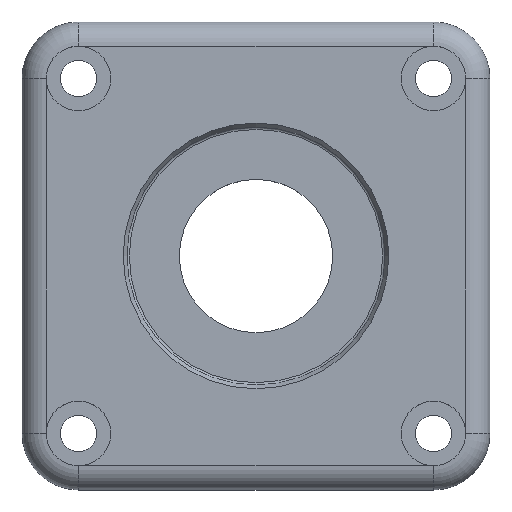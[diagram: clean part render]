
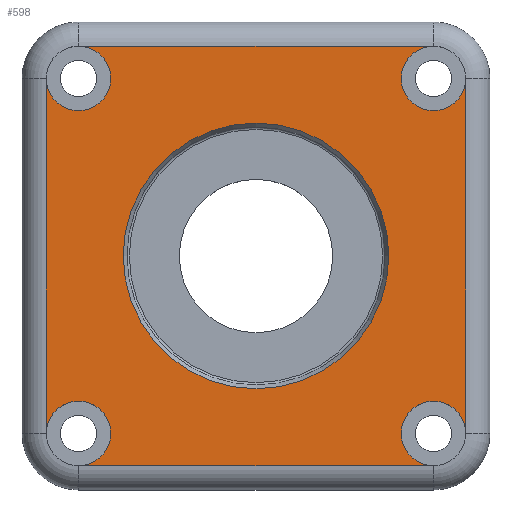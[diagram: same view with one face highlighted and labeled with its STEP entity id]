
A CAD part, top view. The second image highlights one B-rep face of the part: STEP entity #598.
In plain terms, the highlighted planar face has unit normal (0, 0, 1).
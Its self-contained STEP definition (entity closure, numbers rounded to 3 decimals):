
#18=FACE_BOUND('',#174,.T.);
#31=PLANE('',#669);
#45=LINE('',#1003,#78);
#46=LINE('',#1009,#79);
#47=LINE('',#1013,#80);
#48=LINE('',#1016,#81);
#78=VECTOR('',#785,10.);
#79=VECTOR('',#790,10.);
#80=VECTOR('',#793,10.);
#81=VECTOR('',#796,10.);
#132=FACE_OUTER_BOUND('',#173,.T.);
#173=EDGE_LOOP('',(#432,#433,#434,#435,#436,#437,#438,#439,#440,#441));
#174=EDGE_LOOP('',(#442));
#228=CIRCLE('',#668,16.462);
#229=CIRCLE('',#670,4.);
#230=CIRCLE('',#671,4.);
#231=CIRCLE('',#672,4.);
#232=CIRCLE('',#673,4.);
#233=CIRCLE('',#674,4.);
#234=CIRCLE('',#675,4.);
#281=VERTEX_POINT('',#993);
#282=VERTEX_POINT('',#997);
#283=VERTEX_POINT('',#998);
#284=VERTEX_POINT('',#1000);
#285=VERTEX_POINT('',#1002);
#286=VERTEX_POINT('',#1004);
#287=VERTEX_POINT('',#1006);
#288=VERTEX_POINT('',#1008);
#289=VERTEX_POINT('',#1010);
#290=VERTEX_POINT('',#1012);
#291=VERTEX_POINT('',#1014);
#335=EDGE_CURVE('',#281,#281,#228,.T.);
#337=EDGE_CURVE('',#282,#283,#229,.T.);
#338=EDGE_CURVE('',#283,#284,#230,.T.);
#339=EDGE_CURVE('',#285,#284,#45,.T.);
#340=EDGE_CURVE('',#285,#286,#231,.T.);
#341=EDGE_CURVE('',#286,#287,#232,.T.);
#342=EDGE_CURVE('',#288,#287,#46,.T.);
#343=EDGE_CURVE('',#288,#289,#233,.T.);
#344=EDGE_CURVE('',#290,#289,#47,.T.);
#345=EDGE_CURVE('',#290,#291,#234,.T.);
#346=EDGE_CURVE('',#282,#291,#48,.T.);
#432=ORIENTED_EDGE('',*,*,#337,.T.);
#433=ORIENTED_EDGE('',*,*,#338,.T.);
#434=ORIENTED_EDGE('',*,*,#339,.F.);
#435=ORIENTED_EDGE('',*,*,#340,.T.);
#436=ORIENTED_EDGE('',*,*,#341,.T.);
#437=ORIENTED_EDGE('',*,*,#342,.F.);
#438=ORIENTED_EDGE('',*,*,#343,.T.);
#439=ORIENTED_EDGE('',*,*,#344,.F.);
#440=ORIENTED_EDGE('',*,*,#345,.T.);
#441=ORIENTED_EDGE('',*,*,#346,.F.);
#442=ORIENTED_EDGE('',*,*,#335,.F.);
#598=ADVANCED_FACE('',(#132,#18),#31,.T.);
#668=AXIS2_PLACEMENT_3D('',#994,#776,#777);
#669=AXIS2_PLACEMENT_3D('',#996,#779,#780);
#670=AXIS2_PLACEMENT_3D('',#999,#781,#782);
#671=AXIS2_PLACEMENT_3D('',#1001,#783,#784);
#672=AXIS2_PLACEMENT_3D('',#1005,#786,#787);
#673=AXIS2_PLACEMENT_3D('',#1007,#788,#789);
#674=AXIS2_PLACEMENT_3D('',#1011,#791,#792);
#675=AXIS2_PLACEMENT_3D('',#1015,#794,#795);
#776=DIRECTION('center_axis',(0.,0.,1.));
#777=DIRECTION('ref_axis',(0.,-1.,0.));
#779=DIRECTION('center_axis',(0.,0.,1.));
#780=DIRECTION('ref_axis',(1.,0.,0.));
#781=DIRECTION('center_axis',(0.,0.,-1.));
#782=DIRECTION('ref_axis',(1.,0.,0.));
#783=DIRECTION('center_axis',(0.,0.,-1.));
#784=DIRECTION('ref_axis',(1.,0.,0.));
#785=DIRECTION('',(0.,-1.,0.));
#786=DIRECTION('center_axis',(0.,0.,-1.));
#787=DIRECTION('ref_axis',(1.,0.,0.));
#788=DIRECTION('center_axis',(0.,0.,-1.));
#789=DIRECTION('ref_axis',(1.,0.,0.));
#790=DIRECTION('',(1.,0.,0.));
#791=DIRECTION('center_axis',(0.,0.,-1.));
#792=DIRECTION('ref_axis',(1.,0.,0.));
#793=DIRECTION('',(0.,1.,0.));
#794=DIRECTION('center_axis',(0.,0.,-1.));
#795=DIRECTION('ref_axis',(1.,0.,0.));
#796=DIRECTION('',(-1.,0.,0.));
#993=CARTESIAN_POINT('',(0.,16.462,10.));
#994=CARTESIAN_POINT('Origin',(0.,0.,10.));
#996=CARTESIAN_POINT('Origin',(0.,0.,10.));
#997=CARTESIAN_POINT('',(22.,-26.,10.));
#998=CARTESIAN_POINT('',(18.,-22.,10.));
#999=CARTESIAN_POINT('Origin',(22.,-22.,10.));
#1000=CARTESIAN_POINT('',(26.,-22.,10.));
#1001=CARTESIAN_POINT('Origin',(22.,-22.,10.));
#1002=CARTESIAN_POINT('',(26.,22.,10.));
#1003=CARTESIAN_POINT('',(26.,-11.,10.));
#1004=CARTESIAN_POINT('',(18.,22.,10.));
#1005=CARTESIAN_POINT('Origin',(22.,22.,10.));
#1006=CARTESIAN_POINT('',(22.,26.,10.));
#1007=CARTESIAN_POINT('Origin',(22.,22.,10.));
#1008=CARTESIAN_POINT('',(-22.,26.,10.));
#1009=CARTESIAN_POINT('',(11.,26.,10.));
#1010=CARTESIAN_POINT('',(-26.,22.,10.));
#1011=CARTESIAN_POINT('Origin',(-22.,22.,10.));
#1012=CARTESIAN_POINT('',(-26.,-22.,10.));
#1013=CARTESIAN_POINT('',(-26.,11.,10.));
#1014=CARTESIAN_POINT('',(-22.,-26.,10.));
#1015=CARTESIAN_POINT('Origin',(-22.,-22.,10.));
#1016=CARTESIAN_POINT('',(-11.,-26.,10.));
